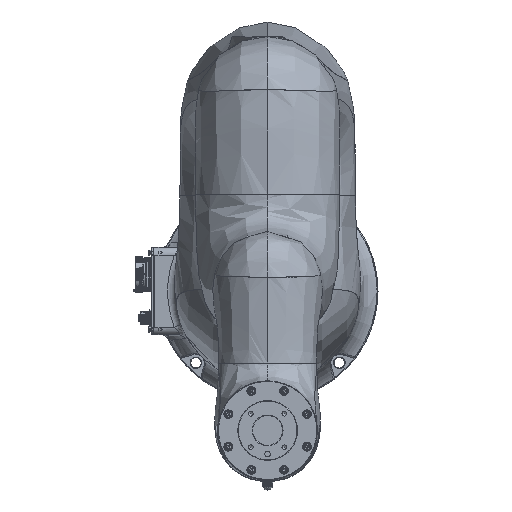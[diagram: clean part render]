
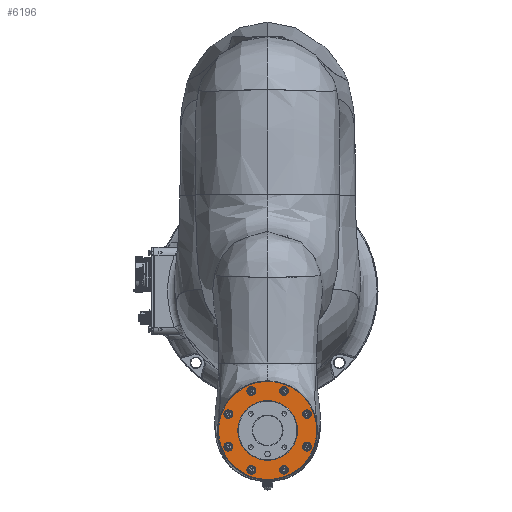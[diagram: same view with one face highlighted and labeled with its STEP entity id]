
A CAD part, top view. The second image highlights one B-rep face of the part: STEP entity #6196.
In plain terms, the highlighted planar face has unit normal (0, 0, 1).
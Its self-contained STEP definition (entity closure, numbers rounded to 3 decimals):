
#6196=ADVANCED_FACE('',(#15502,#15503,#15504,#15505,#15506,#15507,#15508,
#15509,#15510,#15511),#7641,.T.);
#7641=PLANE('',#48145);
#15502=FACE_BOUND('',#18165,.T.);
#15503=FACE_BOUND('',#18166,.T.);
#15504=FACE_BOUND('',#18167,.T.);
#15505=FACE_BOUND('',#18168,.T.);
#15506=FACE_BOUND('',#18169,.T.);
#15507=FACE_BOUND('',#18170,.T.);
#15508=FACE_BOUND('',#18171,.T.);
#15509=FACE_BOUND('',#18172,.T.);
#15510=FACE_BOUND('',#18173,.T.);
#15511=FACE_BOUND('',#18174,.T.);
#18165=EDGE_LOOP('',(#29154));
#18166=EDGE_LOOP('',(#29155));
#18167=EDGE_LOOP('',(#29156));
#18168=EDGE_LOOP('',(#29157));
#18169=EDGE_LOOP('',(#29158));
#18170=EDGE_LOOP('',(#29159));
#18171=EDGE_LOOP('',(#29160));
#18172=EDGE_LOOP('',(#29161));
#18173=EDGE_LOOP('',(#29162));
#18174=EDGE_LOOP('',(#29163));
#29154=ORIENTED_EDGE('',*,*,#40985,.T.);
#29155=ORIENTED_EDGE('',*,*,#40986,.T.);
#29156=ORIENTED_EDGE('',*,*,#40987,.T.);
#29157=ORIENTED_EDGE('',*,*,#40988,.T.);
#29158=ORIENTED_EDGE('',*,*,#40989,.T.);
#29159=ORIENTED_EDGE('',*,*,#40990,.T.);
#29160=ORIENTED_EDGE('',*,*,#40991,.T.);
#29161=ORIENTED_EDGE('',*,*,#40992,.T.);
#29162=ORIENTED_EDGE('',*,*,#40993,.T.);
#29163=ORIENTED_EDGE('',*,*,#40994,.T.);
#35007=VERTEX_POINT('',#96002);
#35008=VERTEX_POINT('',#96004);
#35009=VERTEX_POINT('',#96006);
#35010=VERTEX_POINT('',#96008);
#35011=VERTEX_POINT('',#96010);
#35012=VERTEX_POINT('',#96012);
#35013=VERTEX_POINT('',#96014);
#35014=VERTEX_POINT('',#96016);
#35015=VERTEX_POINT('',#96018);
#35016=VERTEX_POINT('',#96020);
#40985=EDGE_CURVE('',#35007,#35007,#44042,.T.);
#40986=EDGE_CURVE('',#35008,#35008,#44043,.T.);
#40987=EDGE_CURVE('',#35009,#35009,#44044,.T.);
#40988=EDGE_CURVE('',#35010,#35010,#44045,.T.);
#40989=EDGE_CURVE('',#35011,#35011,#44046,.T.);
#40990=EDGE_CURVE('',#35012,#35012,#44047,.T.);
#40991=EDGE_CURVE('',#35013,#35013,#44048,.T.);
#40992=EDGE_CURVE('',#35014,#35014,#44049,.T.);
#40993=EDGE_CURVE('',#35015,#35015,#44050,.T.);
#40994=EDGE_CURVE('',#35016,#35016,#44051,.T.);
#44042=CIRCLE('',#48135,51.8);
#44043=CIRCLE('',#48136,4.64);
#44044=CIRCLE('',#48137,4.64);
#44045=CIRCLE('',#48138,4.64);
#44046=CIRCLE('',#48139,4.64);
#44047=CIRCLE('',#48140,4.64);
#44048=CIRCLE('',#48141,4.64);
#44049=CIRCLE('',#48142,4.64);
#44050=CIRCLE('',#48143,4.64);
#44051=CIRCLE('',#48144,31.5);
#48135=AXIS2_PLACEMENT_3D('',#96001,#58465,#58466);
#48136=AXIS2_PLACEMENT_3D('',#96003,#58467,#58468);
#48137=AXIS2_PLACEMENT_3D('',#96005,#58469,#58470);
#48138=AXIS2_PLACEMENT_3D('',#96007,#58471,#58472);
#48139=AXIS2_PLACEMENT_3D('',#96009,#58473,#58474);
#48140=AXIS2_PLACEMENT_3D('',#96011,#58475,#58476);
#48141=AXIS2_PLACEMENT_3D('',#96013,#58477,#58478);
#48142=AXIS2_PLACEMENT_3D('',#96015,#58479,#58480);
#48143=AXIS2_PLACEMENT_3D('',#96017,#58481,#58482);
#48144=AXIS2_PLACEMENT_3D('',#96019,#58483,#58484);
#48145=AXIS2_PLACEMENT_3D('',#96021,#58485,#58486);
#58465=DIRECTION('',(0.,0.,1.));
#58466=DIRECTION('',(1.,0.,0.));
#58467=DIRECTION('',(0.,0.,-1.));
#58468=DIRECTION('',(1.,0.,0.));
#58469=DIRECTION('',(0.,0.,-1.));
#58470=DIRECTION('',(1.,0.,0.));
#58471=DIRECTION('',(0.,0.,-1.));
#58472=DIRECTION('',(1.,0.,0.));
#58473=DIRECTION('',(0.,0.,-1.));
#58474=DIRECTION('',(1.,0.,0.));
#58475=DIRECTION('',(0.,0.,-1.));
#58476=DIRECTION('',(1.,0.,0.));
#58477=DIRECTION('',(0.,0.,-1.));
#58478=DIRECTION('',(1.,0.,0.));
#58479=DIRECTION('',(0.,0.,-1.));
#58480=DIRECTION('',(1.,0.,0.));
#58481=DIRECTION('',(0.,0.,-1.));
#58482=DIRECTION('',(1.,0.,0.));
#58483=DIRECTION('',(0.,0.,-1.));
#58484=DIRECTION('',(-1.,0.,0.));
#58485=DIRECTION('',(0.,0.,1.));
#58486=DIRECTION('',(-1.,0.,0.));
#96001=CARTESIAN_POINT('',(0.,0.,
-6.5));
#96002=CARTESIAN_POINT('',(51.8,0.,-6.5));
#96003=CARTESIAN_POINT('',(41.575,17.221,-6.5));
#96004=CARTESIAN_POINT('',(46.214,17.221,-6.5));
#96005=CARTESIAN_POINT('',(17.221,41.575,-6.5));
#96006=CARTESIAN_POINT('',(21.86,41.575,-6.5));
#96007=CARTESIAN_POINT('',(-17.221,41.575,-6.5));
#96008=CARTESIAN_POINT('',(-12.581,41.575,-6.5));
#96009=CARTESIAN_POINT('',(-41.575,17.221,-6.5));
#96010=CARTESIAN_POINT('',(-36.935,17.221,-6.5));
#96011=CARTESIAN_POINT('',(-41.575,-17.221,-6.5));
#96012=CARTESIAN_POINT('',(-36.935,-17.221,-6.5));
#96013=CARTESIAN_POINT('',(-17.221,-41.575,-6.5));
#96014=CARTESIAN_POINT('',(-12.581,-41.575,-6.5));
#96015=CARTESIAN_POINT('',(17.221,-41.575,-6.5));
#96016=CARTESIAN_POINT('',(21.86,-41.575,-6.5));
#96017=CARTESIAN_POINT('',(41.575,-17.221,-6.5));
#96018=CARTESIAN_POINT('',(46.214,-17.221,-6.5));
#96019=CARTESIAN_POINT('',(0.,0.,
-6.5));
#96020=CARTESIAN_POINT('',(-31.5,0.,-6.5));
#96021=CARTESIAN_POINT('',(0.,52.3,-6.5));
